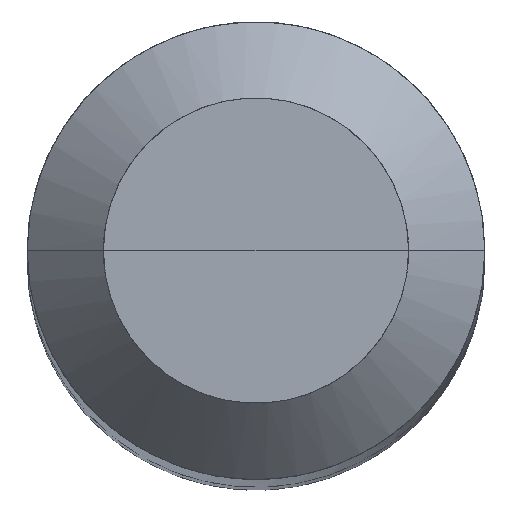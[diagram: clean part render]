
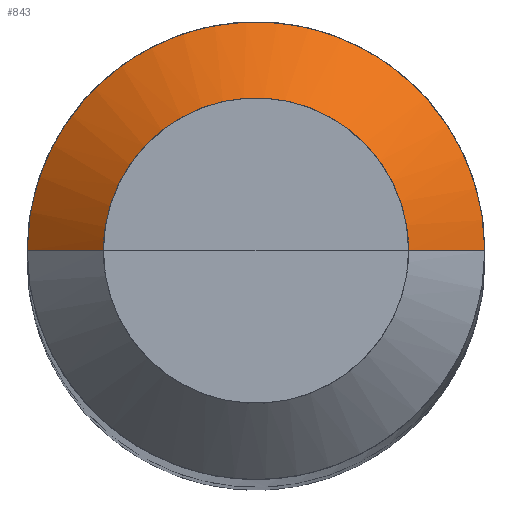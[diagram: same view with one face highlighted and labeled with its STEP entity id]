
A CAD part, top view. The second image highlights one B-rep face of the part: STEP entity #843.
In plain terms, the highlighted free-form (B-spline) face has degree [1, 2] with [2, 5] control points.
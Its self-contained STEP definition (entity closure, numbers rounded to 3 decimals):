
#658=CARTESIAN_POINT('',(1.5,0.0,27.5));
#659=CARTESIAN_POINT('',(1.5,1.5,27.5));
#660=CARTESIAN_POINT('',(0.0,1.5,27.5));
#661=CARTESIAN_POINT('',(-1.5,1.5,27.5));
#662=CARTESIAN_POINT('',(-1.5,0.0,27.5));
#663=CARTESIAN_POINT('',(1.0,0.0,28.0));
#664=CARTESIAN_POINT('',(1.0,1.0,28.0));
#665=CARTESIAN_POINT('',(0.0,1.0,28.0));
#666=CARTESIAN_POINT('',(-1.0,1.0,28.0));
#667=CARTESIAN_POINT('',(-1.0,0.0,28.0));
#824=(
BOUNDED_SURFACE()
B_SPLINE_SURFACE(1,2,(
(#658,#659,#660,#661,#662),
(#663,#664,#665,#666,#667)
), .UNSPECIFIED.,.F.,.F.,.F.)
B_SPLINE_SURFACE_WITH_KNOTS((2,2),(3,2,3),(
0.0,1.0),(
0.0,0.5,1.0), .UNSPECIFIED.)
GEOMETRIC_REPRESENTATION_ITEM()
RATIONAL_B_SPLINE_SURFACE(((1.0,0.707,1.0,0.707,1.0),
(1.0,0.707,1.0,0.707,1.0)
))
REPRESENTATION_ITEM('')
SURFACE()
);
#825=(
BOUNDED_CURVE()
B_SPLINE_CURVE(2,(#662,#661,#660,#659,#658),.UNSPECIFIED.,.F.,.F.)
B_SPLINE_CURVE_WITH_KNOTS((3,2,3),
(0.0,0.5,1.0),.UNSPECIFIED.)
CURVE()
GEOMETRIC_REPRESENTATION_ITEM()
RATIONAL_B_SPLINE_CURVE((1.0,0.707,1.0,0.707,1.0))
REPRESENTATION_ITEM('')
);
#826=(
BOUNDED_CURVE()
B_SPLINE_CURVE(1,(#658,#663),.UNSPECIFIED.,.F.,.F.)
B_SPLINE_CURVE_WITH_KNOTS((2,2),
(0.0,1.0),.UNSPECIFIED.)
CURVE()
GEOMETRIC_REPRESENTATION_ITEM()
RATIONAL_B_SPLINE_CURVE((1.0,1.0))
REPRESENTATION_ITEM('')
);
#827=(
BOUNDED_CURVE()
B_SPLINE_CURVE(2,(#663,#664,#665,#666,#667),.UNSPECIFIED.,.F.,.F.)
B_SPLINE_CURVE_WITH_KNOTS((3,2,3),
(0.0,0.5,1.0),.UNSPECIFIED.)
CURVE()
GEOMETRIC_REPRESENTATION_ITEM()
RATIONAL_B_SPLINE_CURVE((1.0,0.707,1.0,0.707,1.0))
REPRESENTATION_ITEM('')
);
#828=(
BOUNDED_CURVE()
B_SPLINE_CURVE(1,(#667,#662),.UNSPECIFIED.,.F.,.F.)
B_SPLINE_CURVE_WITH_KNOTS((2,2),
(0.0,1.0),.UNSPECIFIED.)
CURVE()
GEOMETRIC_REPRESENTATION_ITEM()
RATIONAL_B_SPLINE_CURVE((1.0,1.0))
REPRESENTATION_ITEM('')
);
#829=VERTEX_POINT('',#658);
#830=VERTEX_POINT('',#662);
#831=VERTEX_POINT('',#663);
#832=VERTEX_POINT('',#667);
#833=EDGE_CURVE('',#830,#829,#825,.T.);
#834=EDGE_CURVE('',#829,#831,#826,.T.);
#835=EDGE_CURVE('',#831,#832,#827,.T.);
#836=EDGE_CURVE('',#832,#830,#828,.T.);
#837=ORIENTED_EDGE('',*,*,#833,.T.);
#838=ORIENTED_EDGE('',*,*,#834,.T.);
#839=ORIENTED_EDGE('',*,*,#835,.T.);
#840=ORIENTED_EDGE('',*,*,#836,.T.);
#841=EDGE_LOOP('',(#837,#838,#839,#840));
#842=FACE_OUTER_BOUND('',#841,.T.);
#843=ADVANCED_FACE('',(#842),#824,.T.);
